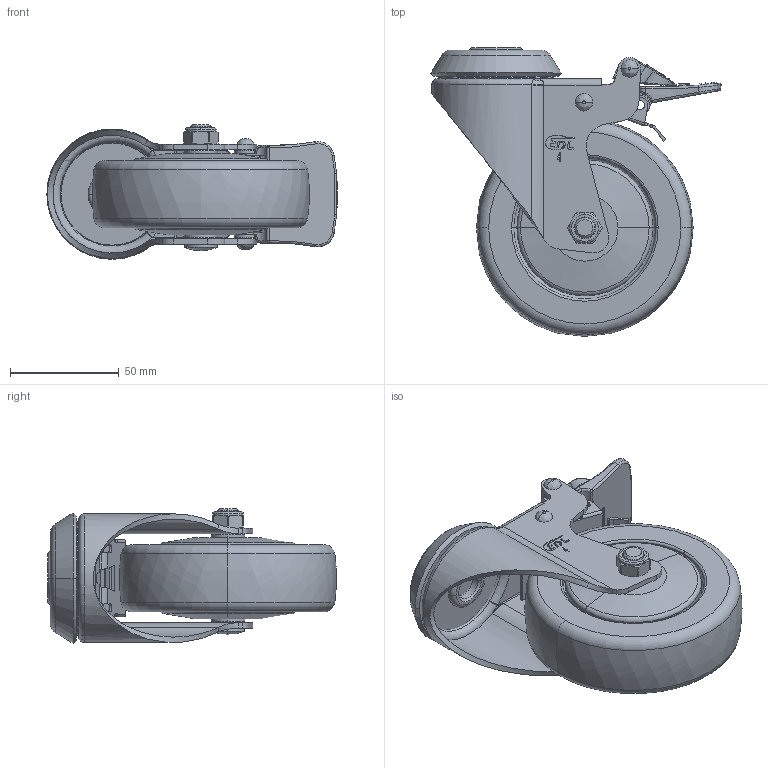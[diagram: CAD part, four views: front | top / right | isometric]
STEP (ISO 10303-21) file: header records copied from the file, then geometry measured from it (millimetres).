
FILE_DESCRIPTION((''),'2;1');
FILE_NAME('57284H-574-77_ASM','2021-01-05T',('lenovo'),(''),'PRO/ENGINEER BY PARAMETRIC TECHNOLOGY CORPORATION, 2010280','PRO/ENGINEER BY PARAMETRIC TECHNOLOGY CORPORATION, 2010280','');
FILE_SCHEMA(('CONFIG_CONTROL_DESIGN'));
Length unit declared in the file: millimetre
Products named in the file (10): 5710-058; 5724-321; 5720-211; 574-77; 5710-020; 5710-031; 570-64OFF; 5734-401; 571-64ON; 57284H-574-77_ASM
Assembly tree (9 placements, depth 2):
  57284H-574-77_ASM
    5710-058
    5724-321
    5720-211
    574-77
    5710-020
    5710-031
    570-64OFF
    5734-401
    571-64ON
Bounding box: 133.68 x 132.91 x 62 mm (x, y, z)
Volume: 330600.1 mm3; surface area: 83911.2 mm2
Topology: 9 solids, 9 shells, 764 faces, 1979 edges, 1250 vertices
Faces by surface type: plane 379, cylinder 197, bspline 76, cone 64, torus 44, sphere 4
Entity records: 26755 total; most frequent: CARTESIAN_POINT 8285, ORIENTED_EDGE 3946, DIRECTION 3660, EDGE_CURVE 1973, AXIS2_PLACEMENT_3D 1287, VERTEX_POINT 1248, VECTOR 1086, LINE 1086
